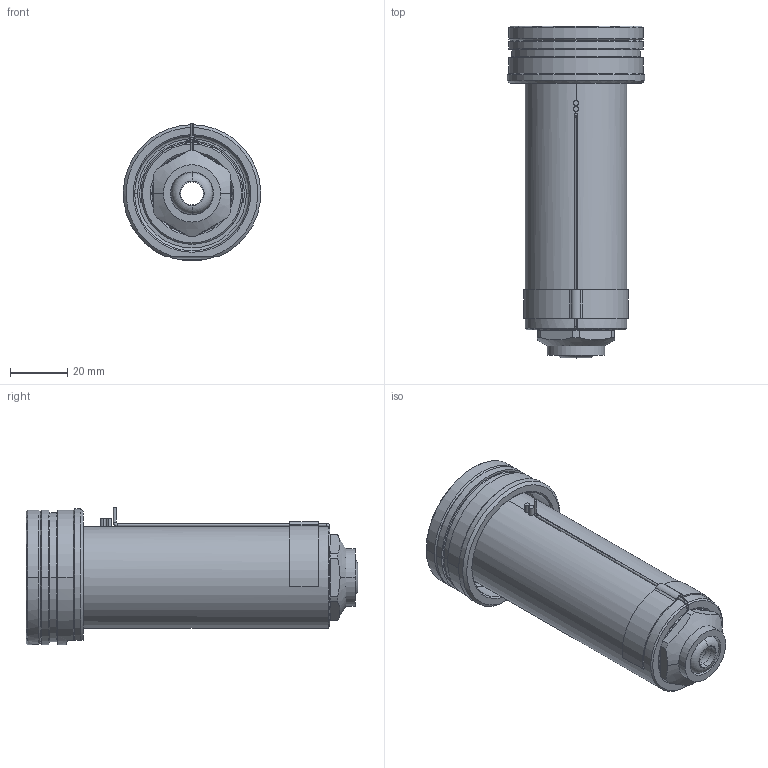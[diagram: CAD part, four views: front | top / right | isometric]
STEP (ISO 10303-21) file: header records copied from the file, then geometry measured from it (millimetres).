
FILE_DESCRIPTION((''),'2;1');
FILE_NAME('EO16_VG-BL_STD_100_SW','2024-02-19T13:18:13',('sundharh'),(''),'CREO PARAMETRIC BY PTC INC, 2023154','CREO PARAMETRIC BY PTC INC, 2023154','');
FILE_SCHEMA(('CONFIG_CONTROL_DESIGN'));
Length unit declared in the file: millimetre
Products named in the file (1): EO16_VG-BL_STD_100_SW
Bounding box: 47.97 x 115.8 x 48 mm (x, y, z)
Volume: 99075.2 mm3; surface area: 27276.6 mm2
Topology: 1 solids, 1 shells, 192 faces, 463 edges, 279 vertices
Faces by surface type: cylinder 72, plane 46, cone 37, torus 22, bspline 13, sphere 2
Entity records: 6452 total; most frequent: CARTESIAN_POINT 1897, DIRECTION 1020, ORIENTED_EDGE 914, EDGE_CURVE 457, AXIS2_PLACEMENT_3D 426, VERTEX_POINT 279, CIRCLE 247, EDGE_LOOP 208
